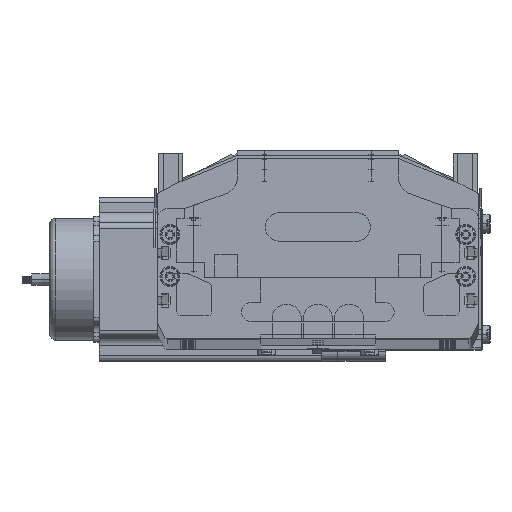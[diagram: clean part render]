
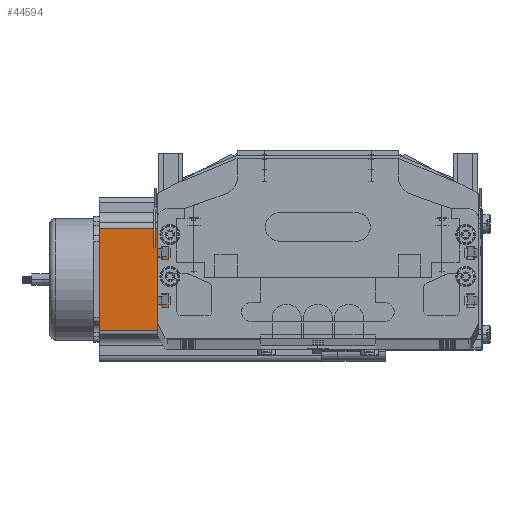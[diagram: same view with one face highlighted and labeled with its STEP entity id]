
A CAD part, top view. The second image highlights one B-rep face of the part: STEP entity #44594.
In plain terms, the highlighted planar face has unit normal (0, 0, 1) as drawn and (0, -1, 0) by its records, which use the part's own axes.
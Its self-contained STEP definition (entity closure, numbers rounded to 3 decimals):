
#44535 = EDGE_CURVE ( 'NONE', #44592, #44641, #64795, .T. ) ;
#44584 = EDGE_LOOP ( 'NONE', ( #44693, #44630, #44654, #44647 ) ) ;
#44591 = VERTEX_POINT ( 'NONE', #64933 ) ;
#44592 = VERTEX_POINT ( 'NONE', #64929 ) ;
#44594 = ADVANCED_FACE ( 'NONE', ( #64906 ), #64935, .F. ) ;
#44599 = EDGE_CURVE ( 'NONE', #44646, #44591, #64886, .T. ) ;
#44630 = ORIENTED_EDGE ( 'NONE', *, *, #44535, .T. ) ;
#44641 = VERTEX_POINT ( 'NONE', #64962 ) ;
#44644 = EDGE_CURVE ( 'NONE', #44646, #44641, #64945, .T. ) ;
#44646 = VERTEX_POINT ( 'NONE', #64976 ) ;
#44647 = ORIENTED_EDGE ( 'NONE', *, *, #44599, .T. ) ;
#44654 = ORIENTED_EDGE ( 'NONE', *, *, #44644, .F. ) ;
#44693 = ORIENTED_EDGE ( 'NONE', *, *, #44699, .T. ) ;
#44699 = EDGE_CURVE ( 'NONE', #44591, #44592, #65082, .T. ) ;
#64791 = DIRECTION ( 'NONE',  ( 0., 0., 1. ) ) ;
#64792 = VECTOR ( 'NONE', #64791, 1000. ) ;
#64793 = CARTESIAN_POINT ( 'NONE',  ( 69.74, 0., 116.5 ) ) ;
#64795 = LINE ( 'NONE', #64793, #64792 ) ;
#64886 = LINE ( 'NONE', #64995, #64994 ) ;
#64892 = DIRECTION ( 'NONE',  ( 0., 0., 1. ) ) ;
#64895 = DIRECTION ( 'NONE',  ( 0., 1., 0. ) ) ;
#64897 = CARTESIAN_POINT ( 'NONE',  ( 0., 0., 116.5 ) ) ;
#64906 = FACE_OUTER_BOUND ( 'NONE', #44584, .T. ) ;
#64914 = AXIS2_PLACEMENT_3D ( 'NONE', #64897, #64895, #64892 ) ;
#64929 = CARTESIAN_POINT ( 'NONE',  ( 69.74, 0., 0. ) ) ;
#64933 = CARTESIAN_POINT ( 'NONE',  ( 16.16, 0., 0. ) ) ;
#64935 = PLANE ( 'NONE',  #64914 ) ;
#64943 = CARTESIAN_POINT ( 'NONE',  ( 0., 0., 116.5 ) ) ;
#64945 = LINE ( 'NONE', #64943, #65054 ) ;
#64962 = CARTESIAN_POINT ( 'NONE',  ( 69.74, 0., 116.5 ) ) ;
#64976 = CARTESIAN_POINT ( 'NONE',  ( 16.16, 0., 116.5 ) ) ;
#64992 = DIRECTION ( 'NONE',  ( 0., 0., -1. ) ) ;
#64994 = VECTOR ( 'NONE', #64992, 1000. ) ;
#64995 = CARTESIAN_POINT ( 'NONE',  ( 16.16, 0., 116.5 ) ) ;
#65053 = DIRECTION ( 'NONE',  ( 1., 0., 0. ) ) ;
#65054 = VECTOR ( 'NONE', #65053, 1000. ) ;
#65069 = DIRECTION ( 'NONE',  ( 1., 0., 0. ) ) ;
#65071 = VECTOR ( 'NONE', #65069, 1000. ) ;
#65073 = CARTESIAN_POINT ( 'NONE',  ( 0., 0., 0. ) ) ;
#65082 = LINE ( 'NONE', #65073, #65071 ) ;
